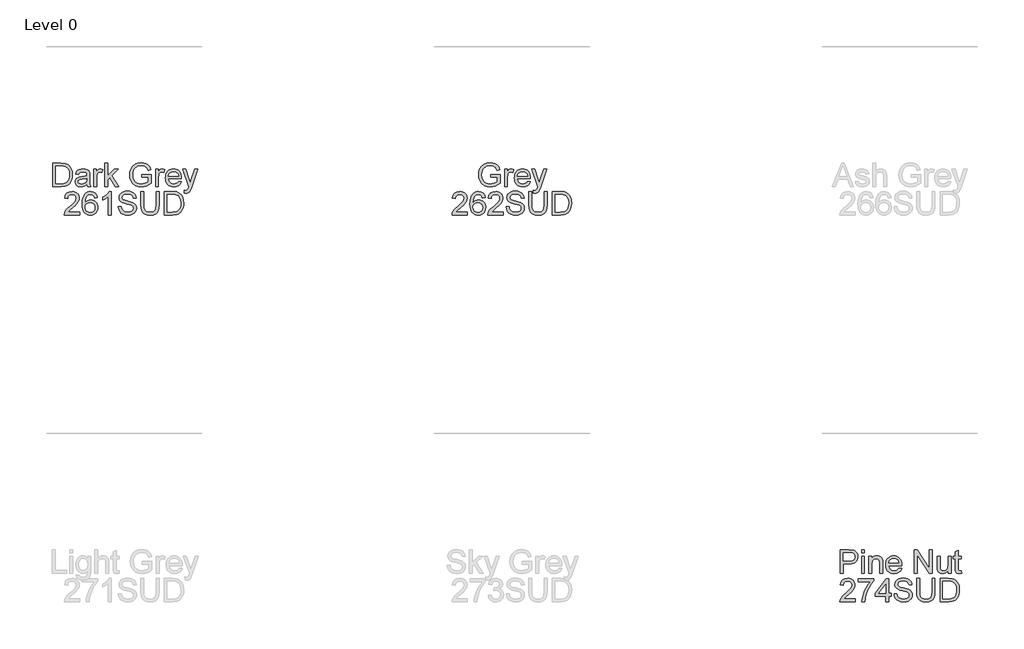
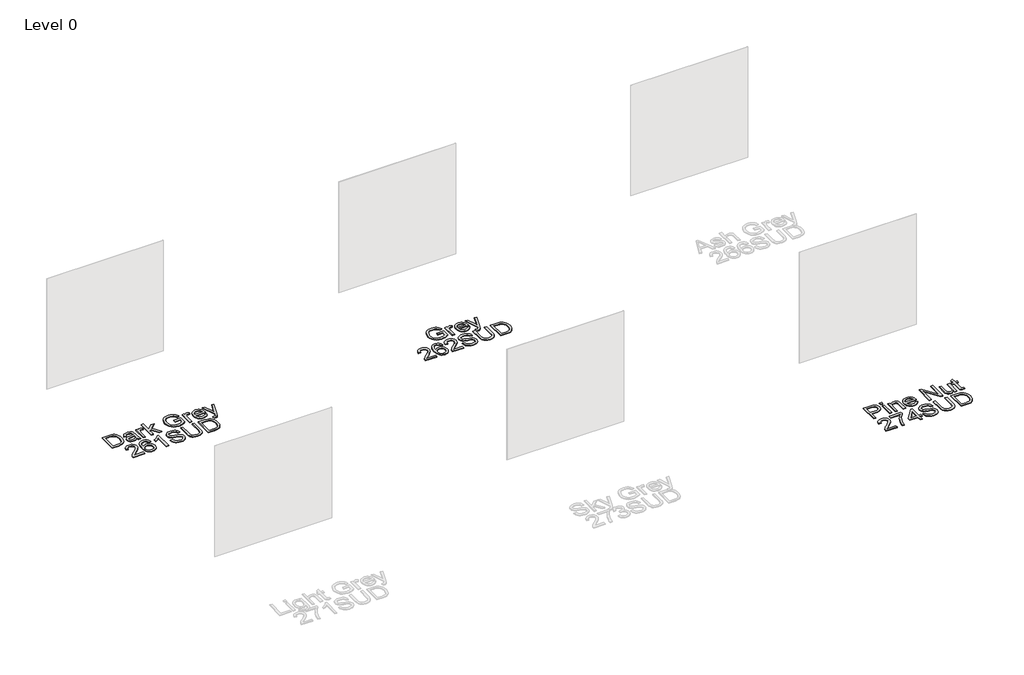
# One storey, part 20 of 37: 3 proxies.
"""IFC4 building model written with IfcOpenShell, lengths in millimetres."""

from ifc_helpers import new_model, si_unit, origin, origin_with_axes, place, context, project, spatial, polyline, outline, extrude, element, save

model = new_model("IFC4")

# Units and contexts
model_context = context("Model", 3, world=origin())
ifc_project = project(units=[si_unit("LENGTHUNIT", "METRE", prefix="MILLI")], contexts=[model_context])

# Site, building, storey
site = spatial("IfcSite", under=ifc_project)
building = spatial("IfcBuilding", under=site)
storey = spatial("IfcBuildingStorey", under=building, Name="Level 0", Elevation=0.0)

# Proxies
placement = place(None, origin())
element("IfcBuildingElementProxy", 1, Name="300mm Arial", ObjectType="300mm Arial", at=placement, inside=storey, context=model_context, shape_type="SweptSolid", body=[
    extrude(outline(polyline([(-368.8915163, -26962.860494), (-368.8915163, -26661.4915635), (-264.9280644, -26661.4915635), (-211.1437167, -26665.8325711), (-187.1210225, -26674.2018865), (-166.8507245, -26687.390456), (-146.0102095, -26710.3462925), (-131.166171, -26738.8939353), (-122.2818208, -26772.4815615), (-119.3203707, -26810.557348), (-121.3253276, -26842.9033724), (-127.3401982, -26871.3682418), (-136.5004599, -26895.6024682), (-147.94159, -26915.2565638), (-161.1117654, -26930.771987), (-175.4591632, -26942.590196), (-191.9310795, -26951.3549846), (-211.4748105, -26957.710146), (-259.9248693, -26962.860494), (-368.8915163, -26962.860494)]), holes=[polyline([(-331.2204, -26925.1893777), (-264.5601824, -26925.1893777), (-236.9874269, -26923.8282143), (-216.0733355, -26919.7447241), (-200.2911979, -26913.1780305), (-188.1143038, -26904.3672567), (-175.0269019, -26888.0608873), (-165.1952555, -26866.9536578), (-159.0424292, -26840.9535978), (-156.991487, -26809.9687368), (-161.0105978, -26768.9131061), (-173.0679302, -26738.5996297), (-190.8826159, -26717.7775088), (-212.1737863, -26705.1959446), (-233.8420358, -26700.670996), (-265.590252, -26699.1626798), (-331.2204, -26699.1626798), (-331.2204, -26925.1893777)])]), origin_with_axes(), (0.0, 0.0, 1.0), 10.0),
    extrude(outline(polyline([(69.0352108, -26934.6071568), (51.0365842, -26950.0398064), (32.5045287, -26960.1381672), (13.01598, -26965.7115794), (-7.8521262, -26967.5693835), (-39.3336279, -26963.0996173), (-62.5561789, -26949.6903186), (-76.8759855, -26929.3280501), (-81.6492544, -26903.9993748), (-79.8466327, -26888.3827841), (-74.4387673, -26874.2009331), (-66.0970431, -26862.0608273), (-55.4928446, -26852.5694718), (-29.1157055, -26840.2086368), (3.4786392, -26834.5432541), (41.9958841, -26828.5835657), (68.8144816, -26821.5938078), (69.0352108, -26813.2060983), (66.4416427, -26796.3938912), (58.6609385, -26785.3942195), (41.2601202, -26777.2272392), (17.0166967, -26774.5049125), (-5.424105, -26776.3167313), (-21.095878, -26781.7521878), (-31.78285, -26791.8045633), (-39.2692486, -26807.4671392), (-76.9403649, -26802.7582497), (-70.4012624, -26782.156858), (-60.6431925, -26765.9700502), (-46.7556472, -26753.590821), (-27.8281185, -26744.4121652), (-4.679144, -26738.7283884), (21.872739, -26736.8337961), (47.3393701, -26738.5076592), (67.5268946, -26743.5292485), (82.7480122, -26751.0800264), (93.3154225, -26760.3414556), (100.3235745, -26771.7917827), (104.8669171, -26785.9092543), (106.7063271, -26818.8714811), (106.7063271, -26865.7396473), (108.6193135, -26931.1858542), (116.1241062, -26962.860494), (78.4529899, -26962.860494), (69.0352108, -26934.6071568)]), holes=[polyline([(69.0352108, -26859.2649241), (8.2611052, -26870.8164188), (-24.1492986, -26876.9232599), (-38.8277902, -26886.8560738), (-43.9781381, -26901.3506244), (-41.1730379, -26912.5526311), (-32.7577373, -26921.7312869), (-18.9161772, -26927.8565221), (0.1677013, -26929.8982672), (20.401211, -26927.64499), (38.280276, -26920.8851583), (52.7748266, -26910.9247533), (62.8547933, -26899.069756), (67.3245595, -26886.8560738), (68.8144816, -26869.933502), (69.0352108, -26859.2649241)])]), origin_with_axes(), (0.0, 0.0, 1.0), 10.0),
    extrude(outline(polyline([(158.504112, -26962.860494), (158.504112, -26741.5426857), (191.4663388, -26741.5426857), (191.4663388, -26774.2841833), (203.6432328, -26755.3014723), (214.8636337, -26744.1178596), (226.1208227, -26738.654812), (238.4080814, -26736.8337961), (257.1700631, -26739.7400639), (276.2263505, -26748.4588672), (263.6447862, -26782.2304343), (250.4010344, -26776.4362929), (237.1572826, -26774.5049125), (225.9092906, -26776.3627165), (215.8569151, -26781.9361288), (207.73592, -26790.8020848), (202.2820694, -26802.5375205), (197.7019386, -26823.5803706), (196.1752283, -26846.5362071), (196.1752283, -26962.860494), (158.504112, -26962.860494)])), origin_with_axes(), (0.0, 0.0, 1.0), 10.0),
    extrude(outline(polyline([(299.7707982, -26962.860494), (299.7707982, -26661.4915635), (337.4419145, -26661.4915635), (337.4419145, -26823.4332178), (421.9076206, -26741.5426857), (473.9997111, -26741.5426857), (388.5039354, -26824.4632874), (478.7086006, -26962.860494), (434.709914, -26962.860494), (361.501397, -26850.6564855), (337.4419145, -26873.9802039), (337.4419145, -26962.860494), (299.7707982, -26962.860494)])), origin_with_axes(), (0.0, 0.0, 1.0), 10.0),
    extrude(outline(polyline([(775.3686415, -26845.1382555), (775.3686415, -26807.4671392), (897.7997695, -26807.4671392), (897.7997695, -26920.1126061), (868.0473132, -26940.8059684), (837.3567577, -26955.6500069), (805.8016796, -26964.5895394), (773.4556552, -26967.5693835), (731.195211, -26962.8329028), (692.9998628, -26948.6234608), (661.2700407, -26925.437698), (638.4061747, -26893.7722553), (624.5830088, -26855.7884393), (619.9752868, -26813.6475567), (624.5646147, -26771.2031715), (638.3325983, -26731.7202364), (660.7090207, -26698.6016598), (691.1236646, -26675.2503502), (728.1693815, -26661.399593), (770.4390228, -26656.782674), (801.4698691, -26659.4590155), (829.3737184, -26667.4880401), (852.8721809, -26680.2903335), (870.6868665, -26697.2864817), (883.866239, -26719.295022), (893.458762, -26747.134492), (858.7307016, -26756.9201531), (850.9775886, -26737.0637224), (841.5506125, -26722.0817281), (829.0794128, -26710.7877509), (812.1936292, -26701.9953712), (792.0612871, -26696.3391855), (769.8504116, -26694.4537903), (743.8503516, -26696.4863383), (721.621082, -26702.5839824), (703.2453764, -26711.9833674), (688.8060081, -26723.9211381), (669.4186269, -26752.9470275), (660.589459, -26781.3843058), (657.6464031, -26812.1024524), (661.1872673, -26848.1272967), (671.8098599, -26877.7693885), (689.1922842, -26900.8171955), (713.0126433, -26917.0591856), (740.8889015, -26926.6884968), (770.4390228, -26929.8982672), (796.5310533, -26927.4794431), (821.9792903, -26920.2229707), (844.0798012, -26910.2257775), (860.1286532, -26899.5847908), (860.1286532, -26845.1382555), (775.3686415, -26845.1382555)])), origin_with_axes(), (0.0, 0.0, 1.0), 10.0),
    extrude(outline(polyline([(954.306444, -26962.860494), (954.306444, -26741.5426857), (987.2686708, -26741.5426857), (987.2686708, -26774.2841833), (999.4455648, -26755.3014723), (1010.6659656, -26744.1178596), (1021.9231547, -26738.654812), (1034.2104133, -26736.8337961), (1052.9723951, -26739.7400639), (1072.0286824, -26748.4588672), (1059.4471182, -26782.2304343), (1046.2033664, -26776.4362929), (1032.9596146, -26774.5049125), (1021.7116225, -26776.3627165), (1011.659247, -26781.9361288), (1003.538252, -26790.8020848), (998.0844014, -26802.5375205), (993.5042706, -26823.5803706), (991.9775603, -26846.5362071), (991.9775603, -26962.860494), (954.306444, -26962.860494)])), origin_with_axes(), (0.0, 0.0, 1.0), 10.0),
    extrude(outline(polyline([(1250.5250265, -26896.9360404), (1287.4603788, -26901.64493), (1274.1522476, -26929.4752029), (1252.9162595, -26950.2789297), (1224.2306609, -26963.2467701), (1188.5736985, -26967.5693835), (1165.1993962, -26965.7046817), (1144.3726768, -26960.1105761), (1126.0935402, -26950.7870668), (1110.3619863, -26937.7341537), (1097.7114442, -26921.3151204), (1088.6753427, -26901.8932503), (1083.2536818, -26879.4685435), (1081.4464615, -26854.0409998), (1083.2720759, -26827.7512327), (1088.7489191, -26804.5792656), (1097.8769911, -26784.5250983), (1110.6562919, -26767.5887309), (1126.346459, -26754.133447), (1144.2071299, -26744.5225298), (1164.2383045, -26738.7559796), (1186.4399829, -26736.8337961), (1207.9265907, -26738.751381), (1227.3576579, -26744.5041357), (1244.7331843, -26754.0920602), (1260.0531702, -26767.5151545), (1272.5588587, -26784.4147337), (1281.4914934, -26804.4321128), (1286.8510743, -26827.5672917), (1288.6376012, -26853.8202706), (1288.416872, -26863.9738137), (1119.1175778, -26863.9738137), (1125.6382862, -26892.1719686), (1140.7858273, -26912.902119), (1162.6472149, -26925.6492302), (1189.3094625, -26929.8982672), (1209.3590312, -26927.9300985), (1226.2448148, -26922.0255925), (1239.9668132, -26911.8168672), (1250.5250265, -26896.9360404)]), holes=[polyline([(1119.1175778, -26826.3026974), (1250.9664849, -26826.3026974), (1245.8713193, -26806.4002814), (1235.8833231, -26792.1632482), (1213.920768, -26778.9194964), (1186.2928301, -26774.5049125), (1160.8997754, -26778.0273826), (1139.9029105, -26788.5947929), (1125.3071924, -26805.0667092), (1119.1175778, -26826.3026974)])]), origin_with_axes(), (0.0, 0.0, 1.0), 10.0),
    extrude(outline(polyline([(1326.3087175, -27047.6205057), (1321.599828, -27011.3473409), (1340.7296917, -27014.6582789), (1358.6087567, -27010.5012124), (1369.5716401, -26998.9129295), (1379.872336, -26971.1746271), (1382.815392, -26962.0511536), (1302.7642698, -26741.5426857), (1342.4955253, -26741.5426857), (1384.9491075, -26864.4152721), (1399.7379637, -26913.5643066), (1414.5268199, -26870.1542312), (1458.1576246, -26741.5426857), (1497.5945745, -26741.5426857), (1420.5600847, -26968.1579947), (1400.5473041, -27017.3070293), (1390.3017906, -27032.9971964), (1378.6951136, -27043.8681093), (1365.2122385, -27050.2140737), (1349.3381304, -27052.3293952), (1326.3087175, -27047.6205057)])), origin_with_axes(), (0.0, 0.0, 1.0), 10.0),
    extrude(outline(polyline([(-25.14258, -27291.1138312), (-25.14258, -27328.7849475), (-222.9159406, -27328.7849475), (-218.8692386, -27302.8124787), (-209.5802183, -27282.5145896), (-195.9869785, -27262.8237058), (-176.3236859, -27242.213117), (-148.8245068, -27219.156113), (-108.1735463, -27183.0484951), (-83.78297, -27156.3954446), (-71.5876819, -27134.7639833), (-67.5225858, -27113.7211331), (-71.3577556, -27094.8579838), (-82.863265, -27079.1770138), (-100.5491919, -27068.6096035), (-122.9256143, -27065.0871334), (-146.4240767, -27068.52683), (-164.6802207, -27078.84592), (-176.4616416, -27095.2350629), (-180.5359347, -27116.8849183), (-218.207051, -27112.1760288), (-209.0743805, -27075.7373171), (-200.5280219, -27061.2013798), (-189.3283144, -27049.1210548), (-175.7327754, -27039.6251008), (-159.9989224, -27032.8422765), (-122.1162739, -27027.4160171), (-101.9264502, -27028.9243332), (-83.957714, -27033.4492818), (-68.2100653, -27040.9908627), (-54.6835042, -27051.549076), (-43.819489, -27064.3421723), (-36.0594782, -27078.5884026), (-31.4034717, -27094.2877667), (-29.8514695, -27111.4402648), (-31.5253326, -27129.4572855), (-36.5469218, -27147.1616065), (-45.4588632, -27165.1694302), (-58.8037825, -27184.0969588), (-80.0765589, -27206.6941104), (-112.7720712, -27235.7108027), (-156.1085703, -27271.9471793), (-173.1047184, -27291.1138312), (-25.14258, -27291.1138312)])), origin_with_axes(), (0.0, 0.0, 1.0), 10.0),
    extrude(outline(polyline([(205.5930074, -27107.4671392), (167.9218911, -27112.1760288), (161.8518382, -27093.5060175), (153.6480697, -27080.7589064), (136.559951, -27069.0050766), (115.903377, -27065.0871334), (98.392194, -27067.3680017), (81.9110806, -27074.2106069), (67.7568209, -27088.622384), (56.1961292, -27108.4604206), (48.3878338, -27136.5206198), (45.4907631, -27175.5988847), (60.6015161, -27157.9681401), (78.7105073, -27145.5429257), (98.8060612, -27138.1760888), (119.8765025, -27135.7204764), (137.9762967, -27137.3989381), (154.6781393, -27142.4343229), (169.9820303, -27150.8266309), (183.8879697, -27162.5758621), (195.4440629, -27176.9830407), (203.6984151, -27193.349191), (208.6510265, -27211.6743129), (210.3018969, -27231.9584064), (207.1932941, -27258.9333537), (197.8674855, -27283.9401323), (183.0970234, -27305.1485293), (163.6544599, -27320.7283318), (140.422712, -27330.3024607), (114.2846962, -27333.4938371), (91.8277997, -27331.3785156), (71.5460054, -27325.0325512), (53.4393135, -27314.4559438), (37.5077238, -27299.6486935), (24.5191901, -27279.9854009), (15.241666, -27254.8406665), (9.6751516, -27224.2144904), (7.8196468, -27188.1068726), (9.879786, -27147.6260575), (16.0602035, -27113.0773396), (26.3608993, -27084.4607189), (40.7818736, -27061.7761954), (56.4122598, -27046.7436174), (74.5350466, -27036.0060617), (95.1502339, -27029.5635282), (118.2578217, -27027.4160171), (151.312019, -27032.7319119), (177.7811286, -27048.6795964), (196.3223811, -27074.0082718), (205.5930074, -27107.4671392)]), holes=[polyline([(45.4907631, -27231.3697952), (47.6704639, -27248.0624407), (54.2095664, -27264.0009282), (64.3631095, -27277.7045325), (77.3861321, -27287.6925287), (93.1038903, -27293.7901727), (111.3416402, -27295.8227207), (136.2012661, -27291.6104719), (155.7449971, -27278.9737254), (168.4093347, -27259.1080976), (172.6307806, -27233.2092052), (168.464517, -27208.3495793), (155.9657263, -27189.3944595), (136.0909015, -27177.3923095), (109.7965359, -27173.3915928), (84.9736982, -27177.3923095), (64.2159567, -27189.3944595), (50.1720615, -27207.8897269), (45.4907631, -27231.3697952)])]), origin_with_axes(), (0.0, 0.0, 1.0), 10.0),
    extrude(outline(polyline([(384.5308099, -27328.7849475), (346.8596935, -27328.7849475), (346.8596935, -27093.9290818), (311.17514, -27119.3497277), (271.5174609, -27138.3692268), (271.5174609, -27102.7582497), (301.1043704, -27086.6634124), (326.7365484, -27067.5151545), (346.942467, -27047.1528861), (360.2505982, -27027.4160171), (384.5308099, -27027.4160171), (384.5308099, -27328.7849475)])), origin_with_axes(), (0.0, 0.0, 1.0), 10.0),
    extrude(outline(polyline([(473.9997111, -27225.1893777), (511.6708274, -27225.1893777), (515.9934408, -27246.0942721), (523.8109332, -27262.8972822), (536.0062214, -27276.2330045), (553.462222, -27286.7360355), (574.7993778, -27293.5510494), (598.638131, -27295.8227207), (619.6257989, -27294.1028724), (638.0015045, -27288.9433274), (652.8915283, -27280.7763471), (663.4221504, -27270.0341929), (669.6853414, -27257.700949), (671.7730717, -27244.7606998), (670.2095732, -27232.1515444), (665.5190778, -27221.2530403), (655.9909341, -27211.9548229), (639.9144909, -27204.1465276), (585.0632854, -27189.7623415), (549.0568351, -27180.2433949), (526.0182252, -27171.1843008), (507.2654405, -27158.510766), (493.9757034, -27143.1516928), (486.0570435, -27125.4381747), (483.4174902, -27105.7013056), (486.6824429, -27083.637583), (496.477301, -27063.0637824), (512.5445471, -27045.6261758), (534.6266639, -27032.9710352), (561.1325616, -27025.2731044), (590.4711508, -27022.7071275), (622.2561551, -27025.3926661), (650.068034, -27033.4492818), (672.9135059, -27046.7114277), (689.7992895, -27065.013557), (700.4862614, -27087.2152354), (704.7352985, -27112.1760288), (667.0641821, -27112.1760288), (660.1480006, -27089.6984389), (645.7270264, -27073.4748429), (623.1942542, -27063.6523936), (591.9426787, -27060.3782438), (559.9553393, -27063.6156054), (538.0111782, -27073.3276901), (525.3192494, -27087.6199056), (521.0886065, -27104.5976597), (524.0868447, -27119.0738162), (533.0815595, -27130.7172813), (554.3451388, -27141.1283418), (594.5914291, -27151.7601314), (636.1253064, -27161.8584922), (661.2516466, -27170.669266), (682.7267581, -27184.3360821), (697.7087523, -27201.2034716), (706.5103291, -27221.0874934), (709.444188, -27243.8042066), (706.0688707, -27267.0267576), (695.9429188, -27288.869751), (679.4801995, -27307.668521), (657.0945801, -27321.7584014), (630.1748151, -27330.5599781), (600.109659, -27333.4938371), (563.2018979, -27330.3300519), (532.8240421, -27320.8386964), (508.6266039, -27304.9829824), (490.2600953, -27282.7261217), (478.4694773, -27255.6132187), (473.9997111, -27225.1893777)])), origin_with_axes(), (0.0, 0.0, 1.0), 10.0),
    extrude(outline(polyline([(963.7242231, -27027.4160171), (1001.3953394, -27027.4160171), (1001.3953394, -27201.277048), (998.8385595, -27241.9923878), (991.1682199, -27273.3451308), (976.8392162, -27297.533372), (954.306444, -27316.7552063), (923.514721, -27329.3091794), (884.4088649, -27333.4938371), (846.1583345, -27329.8518053), (815.5781436, -27318.92571), (792.6590953, -27301.0926303), (777.3919925, -27276.7296452), (768.811145, -27244.052527), (765.9508625, -27201.277048), (765.9508625, -27027.4160171), (803.6219788, -27027.4160171), (803.6219788, -27199.9526728), (805.4797828, -27233.8070134), (811.0531951, -27257.3790523), (821.1515558, -27273.7038158), (836.5842055, -27285.8163305), (856.7073507, -27293.3211232), (880.8771977, -27295.8227207), (919.1921075, -27290.8747079), (933.5349068, -27284.6896919), (944.6679357, -27276.0306694), (953.0050614, -27263.8537754), (958.9601512, -27247.1151446), (963.7242231, -27199.9526728), (963.7242231, -27027.4160171)])), origin_with_axes(), (0.0, 0.0, 1.0), 10.0),
    extrude(outline(polyline([(1067.3197929, -27328.7849475), (1067.3197929, -27027.4160171), (1171.2832447, -27027.4160171), (1225.0675924, -27031.7570246), (1249.0902867, -27040.12634), (1269.3605847, -27053.3149095), (1290.2010997, -27076.270746), (1305.0451382, -27104.8183889), (1313.9294884, -27138.406015), (1316.8909384, -27176.4818015), (1314.8859816, -27208.8278259), (1308.8711109, -27237.2926953), (1299.7108493, -27261.5269217), (1288.2697192, -27281.1810173), (1275.0995438, -27296.6964405), (1260.752146, -27308.5146496), (1244.2802296, -27317.2794381), (1224.7364986, -27323.6345996), (1176.2864399, -27328.7849475), (1067.3197929, -27328.7849475)]), holes=[polyline([(1104.9909092, -27291.1138312), (1171.6511267, -27291.1138312), (1199.2238823, -27289.7526678), (1220.1379737, -27285.6691777), (1235.9201113, -27279.1024841), (1248.0970053, -27270.2917103), (1261.1844073, -27253.9853408), (1271.0160536, -27232.8781114), (1277.16888, -27206.8780514), (1279.2198221, -27175.8931903), (1275.2007113, -27134.8375597), (1263.1433789, -27104.5240833), (1245.3286933, -27083.7019623), (1224.0375228, -27071.1203981), (1202.3692733, -27066.5954496), (1170.6210571, -27065.0871334), (1104.9909092, -27065.0871334), (1104.9909092, -27291.1138312)])]), origin_with_axes(), (0.0, 0.0, 1.0), 10.0),
])
element("IfcBuildingElementProxy", 2, Name="300mm Arial", ObjectType="300mm Arial", at=placement, inside=storey, context=model_context, shape_type="SweptSolid", body=[
    extrude(outline(polyline([(5273.8719057, -26845.1382555), (5273.8719057, -26807.4671392), (5396.3030337, -26807.4671392), (5396.3030337, -26920.1126061), (5366.5505773, -26940.8059684), (5335.8600219, -26955.6500069), (5304.3049438, -26964.5895394), (5271.9589193, -26967.5693835), (5229.6984751, -26962.8329028), (5191.503127, -26948.6234608), (5159.7733049, -26925.437698), (5136.9094389, -26893.7722553), (5123.0862729, -26855.7884393), (5118.4785509, -26813.6475567), (5123.0678788, -26771.2031715), (5136.8358625, -26731.7202364), (5159.2122849, -26698.6016598), (5189.6269288, -26675.2503502), (5226.6726457, -26661.399593), (5268.942287, -26656.782674), (5299.9731333, -26659.4590155), (5327.8769826, -26667.4880401), (5351.375445, -26680.2903335), (5369.1901307, -26697.2864817), (5382.3695031, -26719.295022), (5391.9620262, -26747.134492), (5357.2339658, -26756.9201531), (5349.4808528, -26737.0637224), (5340.0538766, -26722.0817281), (5327.582677, -26710.7877509), (5310.6968934, -26701.9953712), (5290.5645512, -26696.3391855), (5268.3536758, -26694.4537903), (5242.3536158, -26696.4863383), (5220.1243462, -26702.5839824), (5201.7486405, -26711.9833674), (5187.3092722, -26723.9211381), (5167.9218911, -26752.9470275), (5159.0927232, -26781.3843058), (5156.1496672, -26812.1024524), (5159.6905315, -26848.1272967), (5170.3131241, -26877.7693885), (5187.6955483, -26900.8171955), (5211.5159075, -26917.0591856), (5239.3921657, -26926.6884968), (5268.942287, -26929.8982672), (5295.0343175, -26927.4794431), (5320.4825545, -26920.2229707), (5342.5830654, -26910.2257775), (5358.6319174, -26899.5847908), (5358.6319174, -26845.1382555), (5273.8719057, -26845.1382555)])), origin_with_axes(), (0.0, 0.0, 1.0), 10.0),
    extrude(outline(polyline([(5452.8097082, -26962.860494), (5452.8097082, -26741.5426857), (5485.7719349, -26741.5426857), (5485.7719349, -26774.2841833), (5497.948829, -26755.3014723), (5509.1692298, -26744.1178596), (5520.4264189, -26738.654812), (5532.7136775, -26736.8337961), (5551.4756593, -26739.7400639), (5570.5319466, -26748.4588672), (5557.9503824, -26782.2304343), (5544.7066306, -26776.4362929), (5531.4628787, -26774.5049125), (5520.2148867, -26776.3627165), (5510.1625112, -26781.9361288), (5502.0415162, -26790.8020848), (5496.5876656, -26802.5375205), (5492.0075347, -26823.5803706), (5490.4808245, -26846.5362071), (5490.4808245, -26962.860494), (5452.8097082, -26962.860494)])), origin_with_axes(), (0.0, 0.0, 1.0), 10.0),
    extrude(outline(polyline([(5749.0282907, -26896.9360404), (5785.963643, -26901.64493), (5772.6555118, -26929.4752029), (5751.4195236, -26950.2789297), (5722.7339251, -26963.2467701), (5687.0769627, -26967.5693835), (5663.7026604, -26965.7046817), (5642.875941, -26960.1105761), (5624.5968043, -26950.7870668), (5608.8652505, -26937.7341537), (5596.2147084, -26921.3151204), (5587.1786069, -26901.8932503), (5581.756946, -26879.4685435), (5579.9497257, -26854.0409998), (5581.7753401, -26827.7512327), (5587.2521833, -26804.5792656), (5596.3802553, -26784.5250983), (5609.1595561, -26767.5887309), (5624.8497232, -26754.133447), (5642.7103941, -26744.5225298), (5662.7415687, -26738.7559796), (5684.9432471, -26736.8337961), (5706.4298549, -26738.751381), (5725.860922, -26744.5041357), (5743.2364485, -26754.0920602), (5758.5564343, -26767.5151545), (5771.0621229, -26784.4147337), (5779.9947576, -26804.4321128), (5785.3543384, -26827.5672917), (5787.1408654, -26853.8202706), (5786.9201362, -26863.9738137), (5617.620842, -26863.9738137), (5624.1415504, -26892.1719686), (5639.2890915, -26912.902119), (5661.1504791, -26925.6492302), (5687.8127267, -26929.8982672), (5707.8622954, -26927.9300985), (5724.748079, -26922.0255925), (5738.4700774, -26911.8168672), (5749.0282907, -26896.9360404)]), holes=[polyline([(5617.620842, -26826.3026974), (5749.4697491, -26826.3026974), (5744.3745834, -26806.4002814), (5734.3865873, -26792.1632482), (5712.4240322, -26778.9194964), (5684.7960943, -26774.5049125), (5659.4030396, -26778.0273826), (5638.4061747, -26788.5947929), (5623.8104566, -26805.0667092), (5617.620842, -26826.3026974)])]), origin_with_axes(), (0.0, 0.0, 1.0), 10.0),
    extrude(outline(polyline([(5824.8119817, -27047.6205057), (5820.1030921, -27011.3473409), (5839.2329559, -27014.6582789), (5857.1120209, -27010.5012124), (5868.0749043, -26998.9129295), (5878.3756002, -26971.1746271), (5881.3186561, -26962.0511536), (5801.267534, -26741.5426857), (5840.9987895, -26741.5426857), (5883.4523717, -26864.4152721), (5898.2412279, -26913.5643066), (5913.0300841, -26870.1542312), (5956.6608888, -26741.5426857), (5996.0978386, -26741.5426857), (5919.0633488, -26968.1579947), (5899.0505683, -27017.3070293), (5888.8050547, -27032.9971964), (5877.1983778, -27043.8681093), (5863.7155027, -27050.2140737), (5847.8413946, -27052.3293952), (5824.8119817, -27047.6205057)])), origin_with_axes(), (0.0, 0.0, 1.0), 10.0),
    extrude(outline(polyline([(4974.85742, -27291.1138312), (4974.85742, -27328.7849475), (4777.0840594, -27328.7849475), (4781.1307614, -27302.8124787), (4790.4197817, -27282.5145896), (4804.0130215, -27262.8237058), (4823.6763141, -27242.213117), (4851.1754932, -27219.156113), (4891.8264537, -27183.0484951), (4916.21703, -27156.3954446), (4928.4123181, -27134.7639833), (4932.4774142, -27113.7211331), (4928.6422444, -27094.8579838), (4917.136735, -27079.1770138), (4899.4508081, -27068.6096035), (4877.0743857, -27065.0871334), (4853.5759233, -27068.52683), (4835.3197793, -27078.84592), (4823.5383584, -27095.2350629), (4819.4640653, -27116.8849183), (4781.792949, -27112.1760288), (4790.9256195, -27075.7373171), (4799.4719781, -27061.2013798), (4810.6716856, -27049.1210548), (4824.2672246, -27039.6251008), (4840.0010776, -27032.8422765), (4877.8837261, -27027.4160171), (4898.0735498, -27028.9243332), (4916.042286, -27033.4492818), (4931.7899347, -27040.9908627), (4945.3164958, -27051.549076), (4956.180511, -27064.3421723), (4963.9405218, -27078.5884026), (4968.5965283, -27094.2877667), (4970.1485305, -27111.4402648), (4968.4746674, -27129.4572855), (4963.4530782, -27147.1616065), (4954.5411368, -27165.1694302), (4941.1962175, -27184.0969588), (4919.9234411, -27206.6941104), (4887.2279288, -27235.7108027), (4843.8914297, -27271.9471793), (4826.8952816, -27291.1138312), (4974.85742, -27291.1138312)])), origin_with_axes(), (0.0, 0.0, 1.0), 10.0),
    extrude(outline(polyline([(5205.5930074, -27107.4671392), (5167.9218911, -27112.1760288), (5161.8518382, -27093.5060175), (5153.6480697, -27080.7589064), (5136.559951, -27069.0050766), (5115.903377, -27065.0871334), (5098.392194, -27067.3680017), (5081.9110806, -27074.2106069), (5067.7568209, -27088.622384), (5056.1961292, -27108.4604206), (5048.3878338, -27136.5206198), (5045.4907631, -27175.5988847), (5060.6015161, -27157.9681401), (5078.7105073, -27145.5429257), (5098.8060612, -27138.1760888), (5119.8765025, -27135.7204764), (5137.9762967, -27137.3989381), (5154.6781393, -27142.4343229), (5169.9820303, -27150.8266309), (5183.8879697, -27162.5758621), (5195.4440629, -27176.9830407), (5203.6984151, -27193.349191), (5208.6510265, -27211.6743129), (5210.3018969, -27231.9584064), (5207.1932941, -27258.9333537), (5197.8674855, -27283.9401323), (5183.0970234, -27305.1485293), (5163.6544599, -27320.7283318), (5140.422712, -27330.3024607), (5114.2846962, -27333.4938371), (5091.8277997, -27331.3785156), (5071.5460054, -27325.0325512), (5053.4393135, -27314.4559438), (5037.5077238, -27299.6486935), (5024.5191901, -27279.9854009), (5015.241666, -27254.8406665), (5009.6751516, -27224.2144904), (5007.8196468, -27188.1068726), (5009.879786, -27147.6260575), (5016.0602035, -27113.0773396), (5026.3608993, -27084.4607189), (5040.7818736, -27061.7761954), (5056.4122598, -27046.7436174), (5074.5350466, -27036.0060617), (5095.1502339, -27029.5635282), (5118.2578217, -27027.4160171), (5151.312019, -27032.7319119), (5177.7811286, -27048.6795964), (5196.3223811, -27074.0082718), (5205.5930074, -27107.4671392)]), holes=[polyline([(5045.4907631, -27231.3697952), (5047.6704639, -27248.0624407), (5054.2095664, -27264.0009282), (5064.3631095, -27277.7045325), (5077.3861321, -27287.6925287), (5093.1038903, -27293.7901727), (5111.3416402, -27295.8227207), (5136.2012661, -27291.6104719), (5155.7449971, -27278.9737254), (5168.4093347, -27259.1080976), (5172.6307806, -27233.2092052), (5168.464517, -27208.3495793), (5155.9657263, -27189.3944595), (5136.0909015, -27177.3923095), (5109.7965359, -27173.3915928), (5084.9736982, -27177.3923095), (5064.2159567, -27189.3944595), (5050.1720615, -27207.8897269), (5045.4907631, -27231.3697952)])]), origin_with_axes(), (0.0, 0.0, 1.0), 10.0),
    extrude(outline(polyline([(5436.3285948, -27291.1138312), (5436.3285948, -27328.7849475), (5238.5552342, -27328.7849475), (5242.6019361, -27302.8124787), (5251.8909565, -27282.5145896), (5265.4841962, -27262.8237058), (5285.1474889, -27242.213117), (5312.646668, -27219.156113), (5353.2976285, -27183.0484951), (5377.6882047, -27156.3954446), (5389.8834929, -27134.7639833), (5393.9485889, -27113.7211331), (5390.1134191, -27094.8579838), (5378.6079097, -27079.1770138), (5360.9219828, -27068.6096035), (5338.5455605, -27065.0871334), (5315.047098, -27068.52683), (5296.790954, -27078.84592), (5285.0095331, -27095.2350629), (5280.93524, -27116.8849183), (5243.2641237, -27112.1760288), (5252.3967942, -27075.7373171), (5260.9431528, -27061.2013798), (5272.1428603, -27049.1210548), (5285.7383993, -27039.6251008), (5301.4722524, -27032.8422765), (5339.3549008, -27027.4160171), (5359.5447246, -27028.9243332), (5377.5134608, -27033.4492818), (5393.2611095, -27040.9908627), (5406.7876706, -27051.549076), (5417.6516857, -27064.3421723), (5425.4116966, -27078.5884026), (5430.0677031, -27094.2877667), (5431.6197052, -27111.4402648), (5429.9458422, -27129.4572855), (5424.9242529, -27147.1616065), (5416.0123116, -27165.1694302), (5402.6673922, -27184.0969588), (5381.3946158, -27206.6941104), (5348.6991035, -27235.7108027), (5305.3626045, -27271.9471793), (5288.3664563, -27291.1138312), (5436.3285948, -27291.1138312)])), origin_with_axes(), (0.0, 0.0, 1.0), 10.0),
    extrude(outline(polyline([(5473.9997111, -27225.1893777), (5511.6708274, -27225.1893777), (5515.9934408, -27246.0942721), (5523.8109332, -27262.8972822), (5536.0062214, -27276.2330045), (5553.462222, -27286.7360355), (5574.7993778, -27293.5510494), (5598.638131, -27295.8227207), (5619.6257989, -27294.1028724), (5638.0015045, -27288.9433274), (5652.8915283, -27280.7763471), (5663.4221504, -27270.0341929), (5669.6853414, -27257.700949), (5671.7730717, -27244.7606998), (5670.2095732, -27232.1515444), (5665.5190778, -27221.2530403), (5655.9909341, -27211.9548229), (5639.9144909, -27204.1465276), (5585.0632854, -27189.7623415), (5549.0568351, -27180.2433949), (5526.0182252, -27171.1843008), (5507.2654405, -27158.510766), (5493.9757034, -27143.1516928), (5486.0570435, -27125.4381747), (5483.4174902, -27105.7013056), (5486.6824429, -27083.637583), (5496.477301, -27063.0637824), (5512.5445471, -27045.6261758), (5534.6266639, -27032.9710352), (5561.1325616, -27025.2731044), (5590.4711508, -27022.7071275), (5622.2561551, -27025.3926661), (5650.068034, -27033.4492818), (5672.9135059, -27046.7114277), (5689.7992895, -27065.013557), (5700.4862614, -27087.2152354), (5704.7352985, -27112.1760288), (5667.0641821, -27112.1760288), (5660.1480006, -27089.6984389), (5645.7270264, -27073.4748429), (5623.1942542, -27063.6523936), (5591.9426787, -27060.3782438), (5559.9553393, -27063.6156054), (5538.0111782, -27073.3276901), (5525.3192494, -27087.6199056), (5521.0886065, -27104.5976597), (5524.0868447, -27119.0738162), (5533.0815595, -27130.7172813), (5554.3451388, -27141.1283418), (5594.5914291, -27151.7601314), (5636.1253064, -27161.8584922), (5661.2516466, -27170.669266), (5682.7267581, -27184.3360821), (5697.7087523, -27201.2034716), (5706.5103291, -27221.0874934), (5709.444188, -27243.8042066), (5706.0688707, -27267.0267576), (5695.9429188, -27288.869751), (5679.4801995, -27307.668521), (5657.0945801, -27321.7584014), (5630.1748151, -27330.5599781), (5600.109659, -27333.4938371), (5563.2018979, -27330.3300519), (5532.8240421, -27320.8386964), (5508.6266039, -27304.9829824), (5490.2600953, -27282.7261217), (5478.4694773, -27255.6132187), (5473.9997111, -27225.1893777)])), origin_with_axes(), (0.0, 0.0, 1.0), 10.0),
    extrude(outline(polyline([(5963.7242231, -27027.4160171), (6001.3953394, -27027.4160171), (6001.3953394, -27201.277048), (5998.8385595, -27241.9923878), (5991.1682199, -27273.3451308), (5976.8392162, -27297.533372), (5954.306444, -27316.7552063), (5923.514721, -27329.3091794), (5884.4088649, -27333.4938371), (5846.1583345, -27329.8518053), (5815.5781436, -27318.92571), (5792.6590953, -27301.0926303), (5777.3919925, -27276.7296452), (5768.811145, -27244.052527), (5765.9508625, -27201.277048), (5765.9508625, -27027.4160171), (5803.6219788, -27027.4160171), (5803.6219788, -27199.9526728), (5805.4797828, -27233.8070134), (5811.0531951, -27257.3790523), (5821.1515558, -27273.7038158), (5836.5842055, -27285.8163305), (5856.7073507, -27293.3211232), (5880.8771977, -27295.8227207), (5919.1921075, -27290.8747079), (5933.5349068, -27284.6896919), (5944.6679357, -27276.0306694), (5953.0050614, -27263.8537754), (5958.9601512, -27247.1151446), (5963.7242231, -27199.9526728), (5963.7242231, -27027.4160171)])), origin_with_axes(), (0.0, 0.0, 1.0), 10.0),
    extrude(outline(polyline([(6067.3197929, -27328.7849475), (6067.3197929, -27027.4160171), (6171.2832447, -27027.4160171), (6225.0675924, -27031.7570246), (6249.0902867, -27040.12634), (6269.3605847, -27053.3149095), (6290.2010997, -27076.270746), (6305.0451382, -27104.8183889), (6313.9294884, -27138.406015), (6316.8909384, -27176.4818015), (6314.8859816, -27208.8278259), (6308.8711109, -27237.2926953), (6299.7108493, -27261.5269217), (6288.2697192, -27281.1810173), (6275.0995438, -27296.6964405), (6260.752146, -27308.5146496), (6244.2802296, -27317.2794381), (6224.7364986, -27323.6345996), (6176.2864399, -27328.7849475), (6067.3197929, -27328.7849475)]), holes=[polyline([(6104.9909092, -27291.1138312), (6171.6511267, -27291.1138312), (6199.2238823, -27289.7526678), (6220.1379737, -27285.6691777), (6235.9201113, -27279.1024841), (6248.0970053, -27270.2917103), (6261.1844073, -27253.9853408), (6271.0160536, -27232.8781114), (6277.16888, -27206.8780514), (6279.2198221, -27175.8931903), (6275.2007113, -27134.8375597), (6263.1433789, -27104.5240833), (6245.3286933, -27083.7019623), (6224.0375228, -27071.1203981), (6202.3692733, -27066.5954496), (6170.6210571, -27065.0871334), (6104.9909092, -27065.0871334), (6104.9909092, -27291.1138312)])]), origin_with_axes(), (0.0, 0.0, 1.0), 10.0),
])
element("IfcBuildingElementProxy", 3, Name="300mm Arial", ObjectType="300mm Arial", at=placement, inside=storey, context=model_context, shape_type="SweptSolid", body=[
    extrude(outline(polyline([(9781.792949, -31952.860494), (9781.792949, -31651.4915635), (9893.4819227, -31651.4915635), (9938.5106789, -31654.3610431), (9958.5878388, -31659.7229232), (9975.1149374, -31668.4509235), (9988.4230686, -31680.9405172), (9998.8433261, -31697.5871775), (10005.5755666, -31717.222879), (10007.8196468, -31738.6795964), (10006.3044328, -31757.1794622), (10001.7587909, -31774.198603), (9994.1827211, -31789.7370188), (9983.5762233, -31803.7947095), (9969.0149941, -31815.4473717), (9949.5747299, -31823.7707019), (9925.2554308, -31828.7647), (9896.0570967, -31830.429366), (9819.4640653, -31830.429366), (9819.4640653, -31952.860494), (9781.792949, -31952.860494)]), holes=[polyline([(9819.4640653, -31792.7582497), (9898.2643886, -31792.7582497), (9931.6680738, -31789.3001589), (9953.7409935, -31778.9258867), (9966.0466462, -31762.2792264), (9970.1485305, -31740.0039716), (9967.7297064, -31723.0813998), (9960.473234, -31708.8075784), (9949.2804243, -31698.0654241), (9935.0525881, -31691.7378538), (9897.3814718, -31689.1626798), (9819.4640653, -31689.1626798), (9819.4640653, -31792.7582497)])]), origin_with_axes(), (0.0, 0.0, 1.0), 10.0),
    extrude(outline(polyline([(10054.9085422, -31689.1626798), (10054.9085422, -31651.4915635), (10092.5796585, -31651.4915635), (10092.5796585, -31689.1626798), (10054.9085422, -31689.1626798)])), origin_with_axes(), (0.0, 0.0, 1.0), 10.0),
    extrude(outline(polyline([(10054.9085422, -31952.860494), (10054.9085422, -31731.5426857), (10092.5796585, -31731.5426857), (10092.5796585, -31952.860494), (10054.9085422, -31952.860494)])), origin_with_axes(), (0.0, 0.0, 1.0), 10.0),
    extrude(outline(polyline([(10149.0863329, -31952.860494), (10149.0863329, -31731.5426857), (10186.7574492, -31731.5426857), (10186.7574492, -31762.4447733), (10199.8448512, -31746.8649708), (10215.5626095, -31735.7365404), (10233.910724, -31729.0594822), (10254.8891948, -31726.8337961), (10273.4580385, -31728.6272209), (10290.4633837, -31734.0074951), (10304.6452346, -31742.303234), (10314.7435954, -31752.8430532), (10326.0375726, -31780.5445674), (10328.0241354, -31816.964885), (10328.0241354, -31952.860494), (10290.3530191, -31952.860494), (10290.3530191, -31822.0416565), (10286.0120115, -31788.7115477), (10280.006338, -31778.7879309), (10270.6713323, -31771.0900002), (10258.7059705, -31766.1511844), (10244.8092281, -31764.5049125), (10222.7455054, -31768.2021265), (10203.9375384, -31779.2937687), (10196.4212494, -31788.3482643), (10191.0524715, -31800.7228949), (10186.7574492, -31835.4325611), (10186.7574492, -31952.860494), (10149.0863329, -31952.860494)])), origin_with_axes(), (0.0, 0.0, 1.0), 10.0),
    extrude(outline(polyline([(10534.7738167, -31886.9360404), (10571.709169, -31891.64493), (10558.4010378, -31919.4752029), (10537.1650497, -31940.2789297), (10508.4794511, -31953.2467701), (10472.8224887, -31957.5693835), (10449.4481864, -31955.7046817), (10428.621467, -31950.1105761), (10410.3423303, -31940.7870668), (10394.6107765, -31927.7341537), (10381.9602344, -31911.3151204), (10372.9241329, -31891.8932503), (10367.502472, -31869.4685435), (10365.6952517, -31844.0409998), (10367.5208661, -31817.7512327), (10372.9977093, -31794.5792656), (10382.1257813, -31774.5250983), (10394.9050821, -31757.5887309), (10410.5952492, -31744.133447), (10428.4559201, -31734.5225298), (10448.4870947, -31728.7559796), (10470.6887731, -31726.8337961), (10492.1753809, -31728.751381), (10511.606448, -31734.5041357), (10528.9819745, -31744.0920602), (10544.3019604, -31757.5151545), (10556.8076489, -31774.4147337), (10565.7402836, -31794.4321128), (10571.0998644, -31817.5672917), (10572.8863914, -31843.8202706), (10572.6656622, -31853.9738137), (10403.366368, -31853.9738137), (10409.8870764, -31882.1719686), (10425.0346175, -31902.902119), (10446.8960051, -31915.6492302), (10473.5582527, -31919.8982672), (10493.6078214, -31917.9300985), (10510.493605, -31912.0255925), (10524.2156034, -31901.8168672), (10534.7738167, -31886.9360404)]), holes=[polyline([(10403.366368, -31816.3026974), (10535.2152751, -31816.3026974), (10530.1201094, -31796.4002814), (10520.1321133, -31782.1632482), (10498.1695582, -31768.9194964), (10470.5416203, -31764.5049125), (10445.1485656, -31768.0273826), (10424.1517007, -31778.5947929), (10409.5559826, -31795.0667092), (10403.366368, -31816.3026974)])]), origin_with_axes(), (0.0, 0.0, 1.0), 10.0),
    extrude(outline(polyline([(10732.9886357, -31952.860494), (10732.9886357, -31651.4915635), (10773.3085024, -31651.4915635), (10930.7619963, -31890.2469784), (10930.7619963, -31651.4915635), (10968.4331126, -31651.4915635), (10968.4331126, -31952.860494), (10928.1132459, -31952.860494), (10770.659752, -31714.0315027), (10770.659752, -31952.860494), (10732.9886357, -31952.860494)])), origin_with_axes(), (0.0, 0.0, 1.0), 10.0),
    extrude(outline(polyline([(11170.9153627, -31952.860494), (11170.9153627, -31914.8214957), (11157.2853348, -31933.5236966), (11141.4112267, -31946.8824116), (11123.2930385, -31954.8976405), (11102.93077, -31957.5693835), (11084.5826555, -31955.6931853), (11067.5037339, -31950.0645908), (11053.1747302, -31941.6033049), (11043.0763694, -31931.2290327), (11031.8559686, -31903.4907302), (11029.6486766, -31868.4683643), (11029.6486766, -31731.5426857), (11067.3197929, -31731.5426857), (11067.3197929, -31850.7364521), (11069.6006613, -31889.1433324), (11075.0913, -31901.9548229), (11084.4998821, -31911.6944987), (11097.201008, -31917.8473251), (11112.5692783, -31919.8982672), (11128.8204654, -31917.8013398), (11144.0231889, -31911.5105577), (11156.5587679, -31901.605335), (11164.8085216, -31888.6650858), (11169.3886525, -31870.9423707), (11170.9153627, -31846.6897502), (11170.9153627, -31731.5426857), (11208.586479, -31731.5426857), (11208.586479, -31952.860494), (11170.9153627, -31952.860494)])), origin_with_axes(), (0.0, 0.0, 1.0), 10.0),
    extrude(outline(polyline([(11340.4353861, -31921.4433716), (11345.1442757, -31953.96414), (11316.9645148, -31957.5693835), (11298.8831148, -31956.005885), (11285.4002396, -31951.3153896), (11275.872096, -31944.0865084), (11269.6548902, -31934.9078526), (11266.2335877, -31919.1441091), (11265.0931535, -31892.1599648), (11265.0931535, -31769.213802), (11236.8398163, -31769.213802), (11236.8398163, -31731.5426857), (11265.0931535, -31731.5426857), (11265.0931535, -31677.758338), (11302.7642698, -31655.6118419), (11302.7642698, -31731.5426857), (11340.4353861, -31731.5426857), (11340.4353861, -31769.213802), (11302.7642698, -31769.213802), (11302.7642698, -31891.0563188), (11304.7508326, -31910.4804881), (11311.1887675, -31917.3598814), (11324.0278491, -31919.8982672), (11340.4353861, -31921.4433716)])), origin_with_axes(), (0.0, 0.0, 1.0), 10.0),
    extrude(outline(polyline([(9974.85742, -32281.1138312), (9974.85742, -32318.7849475), (9777.0840594, -32318.7849475), (9781.1307614, -32292.8124787), (9790.4197817, -32272.5145896), (9804.0130215, -32252.8237058), (9823.6763141, -32232.213117), (9851.1754932, -32209.156113), (9891.8264537, -32173.0484951), (9916.21703, -32146.3954446), (9928.4123181, -32124.7639833), (9932.4774142, -32103.7211331), (9928.6422444, -32084.8579838), (9917.136735, -32069.1770138), (9899.4508081, -32058.6096035), (9877.0743857, -32055.0871334), (9853.5759233, -32058.52683), (9835.3197793, -32068.84592), (9823.5383584, -32085.2350629), (9819.4640653, -32106.8849183), (9781.792949, -32102.1760288), (9790.9256195, -32065.7373171), (9799.4719781, -32051.2013798), (9810.6716856, -32039.1210548), (9824.2672246, -32029.6251008), (9840.0010776, -32022.8422765), (9877.8837261, -32017.4160171), (9898.0735498, -32018.9243332), (9916.042286, -32023.4492818), (9931.7899347, -32030.9908627), (9945.3164958, -32041.549076), (9956.180511, -32054.3421723), (9963.9405218, -32068.5884026), (9968.5965283, -32084.2877667), (9970.1485305, -32101.4402648), (9968.4746674, -32119.4572855), (9963.4530782, -32137.1616065), (9954.5411368, -32155.1694302), (9941.1962175, -32174.0969588), (9919.9234411, -32196.6941104), (9887.2279288, -32225.7108027), (9843.8914297, -32261.9471793), (9826.8952816, -32281.1138312), (9974.85742, -32281.1138312)])), origin_with_axes(), (0.0, 0.0, 1.0), 10.0),
    extrude(outline(polyline([(10012.5285363, -32059.7960229), (10012.5285363, -32022.1249066), (10210.3018969, -32022.1249066), (10210.3018969, -32052.5855358), (10182.1129391, -32088.2608923), (10154.1998927, -32133.6299393), (10129.5793901, -32184.5540045), (10111.2680638, -32236.8944154), (10102.2917432, -32276.0554538), (10097.288548, -32318.7849475), (10059.6174317, -32318.7849475), (10063.6917248, -32279.9550029), (10074.5902289, -32233.8042066), (10092.0186384, -32184.8850983), (10115.6826478, -32137.7502177), (10143.3105856, -32095.1402856), (10172.6307806, -32059.7960229), (10012.5285363, -32059.7960229)])), origin_with_axes(), (0.0, 0.0, 1.0), 10.0),
    extrude(outline(polyline([(10365.6952517, -32318.7849475), (10365.6952517, -32248.1516044), (10229.1374551, -32248.1516044), (10229.1374551, -32210.4804881), (10375.1130308, -32022.1249066), (10403.366368, -32022.1249066), (10403.366368, -32210.4804881), (10441.0374843, -32210.4804881), (10441.0374843, -32248.1516044), (10403.366368, -32248.1516044), (10403.366368, -32318.7849475), (10365.6952517, -32318.7849475)]), holes=[polyline([(10365.6952517, -32210.4804881), (10365.6952517, -32094.0826249), (10275.4905865, -32210.4804881), (10365.6952517, -32210.4804881)])]), origin_with_axes(), (0.0, 0.0, 1.0), 10.0),
    extrude(outline(polyline([(10473.9997111, -32215.1893777), (10511.6708274, -32215.1893777), (10515.9934408, -32236.0942721), (10523.8109332, -32252.8972822), (10536.0062214, -32266.2330045), (10553.462222, -32276.7360355), (10574.7993778, -32283.5510494), (10598.638131, -32285.8227207), (10619.6257989, -32284.1028724), (10638.0015045, -32278.9433274), (10652.8915283, -32270.7763471), (10663.4221504, -32260.0341929), (10669.6853414, -32247.700949), (10671.7730717, -32234.7606998), (10670.2095732, -32222.1515444), (10665.5190778, -32211.2530403), (10655.9909341, -32201.9548229), (10639.9144909, -32194.1465276), (10585.0632854, -32179.7623415), (10549.0568351, -32170.2433949), (10526.0182252, -32161.1843008), (10507.2654405, -32148.510766), (10493.9757034, -32133.1516928), (10486.0570435, -32115.4381747), (10483.4174902, -32095.7013056), (10486.6824429, -32073.637583), (10496.477301, -32053.0637824), (10512.5445471, -32035.6261758), (10534.6266639, -32022.9710352), (10561.1325616, -32015.2731044), (10590.4711508, -32012.7071275), (10622.2561551, -32015.3926661), (10650.068034, -32023.4492818), (10672.9135059, -32036.7114277), (10689.7992895, -32055.013557), (10700.4862614, -32077.2152354), (10704.7352985, -32102.1760288), (10667.0641821, -32102.1760288), (10660.1480006, -32079.6984389), (10645.7270264, -32063.4748429), (10623.1942542, -32053.6523936), (10591.9426787, -32050.3782438), (10559.9553393, -32053.6156054), (10538.0111782, -32063.3276901), (10525.3192494, -32077.6199056), (10521.0886065, -32094.5976597), (10524.0868447, -32109.0738162), (10533.0815595, -32120.7172813), (10554.3451388, -32131.1283418), (10594.5914291, -32141.7601314), (10636.1253064, -32151.8584922), (10661.2516466, -32160.669266), (10682.7267581, -32174.3360821), (10697.7087523, -32191.2034716), (10706.5103291, -32211.0874934), (10709.444188, -32233.8042066), (10706.0688707, -32257.0267576), (10695.9429188, -32278.869751), (10679.4801995, -32297.668521), (10657.0945801, -32311.7584014), (10630.1748151, -32320.5599781), (10600.109659, -32323.4938371), (10563.2018979, -32320.3300519), (10532.8240421, -32310.8386964), (10508.6266039, -32294.9829824), (10490.2600953, -32272.7261217), (10478.4694773, -32245.6132187), (10473.9997111, -32215.1893777)])), origin_with_axes(), (0.0, 0.0, 1.0), 10.0),
    extrude(outline(polyline([(10963.7242231, -32017.4160171), (11001.3953394, -32017.4160171), (11001.3953394, -32191.277048), (10998.8385595, -32231.9923878), (10991.1682199, -32263.3451308), (10976.8392162, -32287.533372), (10954.306444, -32306.7552063), (10923.514721, -32319.3091794), (10884.4088649, -32323.4938371), (10846.1583345, -32319.8518053), (10815.5781436, -32308.92571), (10792.6590953, -32291.0926303), (10777.3919925, -32266.7296452), (10768.811145, -32234.052527), (10765.9508625, -32191.277048), (10765.9508625, -32017.4160171), (10803.6219788, -32017.4160171), (10803.6219788, -32189.9526728), (10805.4797828, -32223.8070134), (10811.0531951, -32247.3790523), (10821.1515558, -32263.7038158), (10836.5842055, -32275.8163305), (10856.7073507, -32283.3211232), (10880.8771977, -32285.8227207), (10919.1921075, -32280.8747079), (10933.5349068, -32274.6896919), (10944.6679357, -32266.0306694), (10953.0050614, -32253.8537754), (10958.9601512, -32237.1151446), (10963.7242231, -32189.9526728), (10963.7242231, -32017.4160171)])), origin_with_axes(), (0.0, 0.0, 1.0), 10.0),
    extrude(outline(polyline([(11067.3197929, -32318.7849475), (11067.3197929, -32017.4160171), (11171.2832447, -32017.4160171), (11225.0675924, -32021.7570246), (11249.0902867, -32030.12634), (11269.3605847, -32043.3149095), (11290.2010997, -32066.270746), (11305.0451382, -32094.8183889), (11313.9294884, -32128.406015), (11316.8909384, -32166.4818015), (11314.8859816, -32198.8278259), (11308.8711109, -32227.2926953), (11299.7108493, -32251.5269217), (11288.2697192, -32271.1810173), (11275.0995438, -32286.6964405), (11260.752146, -32298.5146496), (11244.2802296, -32307.2794381), (11224.7364986, -32313.6345996), (11176.2864399, -32318.7849475), (11067.3197929, -32318.7849475)]), holes=[polyline([(11104.9909092, -32281.1138312), (11171.6511267, -32281.1138312), (11199.2238823, -32279.7526678), (11220.1379737, -32275.6691777), (11235.9201113, -32269.1024841), (11248.0970053, -32260.2917103), (11261.1844073, -32243.9853408), (11271.0160536, -32222.8781114), (11277.16888, -32196.8780514), (11279.2198221, -32165.8931903), (11275.2007113, -32124.8375597), (11263.1433789, -32094.5240833), (11245.3286933, -32073.7019623), (11224.0375228, -32061.1203981), (11202.3692733, -32056.5954496), (11170.6210571, -32055.0871334), (11104.9909092, -32055.0871334), (11104.9909092, -32281.1138312)])]), origin_with_axes(), (0.0, 0.0, 1.0), 10.0),
])

save(model, "model.ifc")
